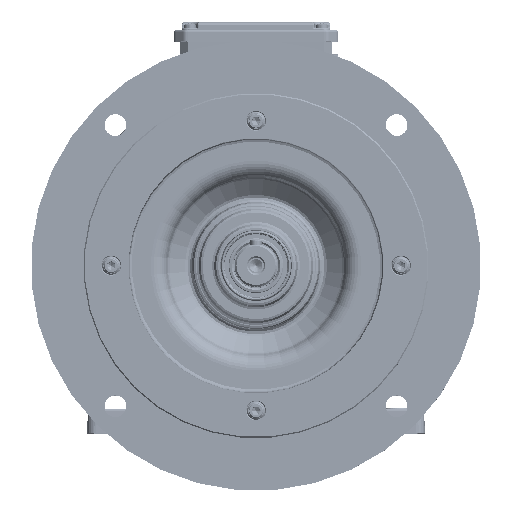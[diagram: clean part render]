
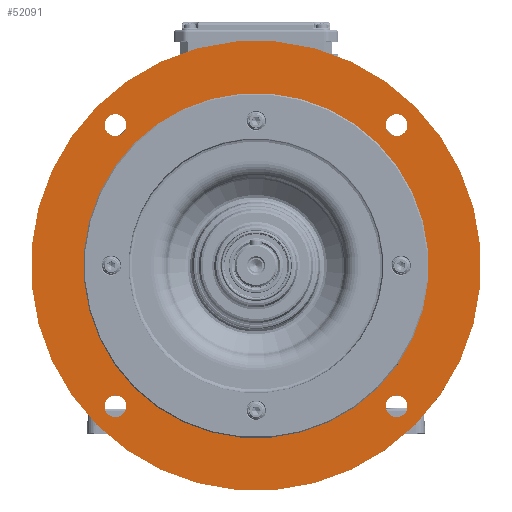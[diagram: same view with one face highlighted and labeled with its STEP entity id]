
A CAD part, top view. The second image highlights one B-rep face of the part: STEP entity #52091.
In plain terms, the highlighted planar face has unit normal (0, 0, 1).
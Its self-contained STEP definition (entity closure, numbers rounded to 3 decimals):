
#52091=ADVANCED_FACE('',(#67790,#67791,#67792,#67793,#67794,#67795),#65133,
 .T.);
#65133=PLANE('',#201046);
#67790=FACE_BOUND('',#69917,.T.);
#67791=FACE_BOUND('',#69918,.T.);
#67792=FACE_BOUND('',#69919,.T.);
#67793=FACE_BOUND('',#69920,.T.);
#67794=FACE_BOUND('',#69921,.T.);
#67795=FACE_BOUND('',#69922,.T.);
#69917=EDGE_LOOP('',(#84298));
#69918=EDGE_LOOP('',(#84299));
#69919=EDGE_LOOP('',(#84300));
#69920=EDGE_LOOP('',(#84301));
#69921=EDGE_LOOP('',(#84302));
#69922=EDGE_LOOP('',(#84303));
#84298=ORIENTED_EDGE('',*,*,#160167,.F.);
#84299=ORIENTED_EDGE('',*,*,#160168,.F.);
#84300=ORIENTED_EDGE('',*,*,#160169,.F.);
#84301=ORIENTED_EDGE('',*,*,#160170,.F.);
#84302=ORIENTED_EDGE('',*,*,#160171,.F.);
#84303=ORIENTED_EDGE('',*,*,#160172,.T.);
#142941=VERTEX_POINT('',#278328);
#142942=VERTEX_POINT('',#278330);
#142943=VERTEX_POINT('',#278332);
#142944=VERTEX_POINT('',#278334);
#142945=VERTEX_POINT('',#278336);
#142946=VERTEX_POINT('',#278338);
#160167=EDGE_CURVE('',#142941,#142941,#189508,.T.);
#160168=EDGE_CURVE('',#142942,#142942,#189509,.T.);
#160169=EDGE_CURVE('',#142943,#142943,#189510,.T.);
#160170=EDGE_CURVE('',#142944,#142944,#189511,.T.);
#160171=EDGE_CURVE('',#142945,#142945,#189512,.T.);
#160172=EDGE_CURVE('',#142946,#142946,#189513,.T.);
#189508=CIRCLE('',#201040,7.25);
#189509=CIRCLE('',#201041,7.25);
#189510=CIRCLE('',#201042,7.25);
#189511=CIRCLE('',#201043,7.25);
#189512=CIRCLE('',#201044,115.);
#189513=CIRCLE('',#201045,150.);
#201040=AXIS2_PLACEMENT_3D('',#278327,#223665,#223666);
#201041=AXIS2_PLACEMENT_3D('',#278329,#223667,#223668);
#201042=AXIS2_PLACEMENT_3D('',#278331,#223669,#223670);
#201043=AXIS2_PLACEMENT_3D('',#278333,#223671,#223672);
#201044=AXIS2_PLACEMENT_3D('',#278335,#223673,#223674);
#201045=AXIS2_PLACEMENT_3D('',#278337,#223675,#223676);
#201046=AXIS2_PLACEMENT_3D('',#278339,#223677,#223678);
#223665=DIRECTION('',(0.,0.,1.));
#223666=DIRECTION('',(-0.707,0.707,0.));
#223667=DIRECTION('',(0.,0.,1.));
#223668=DIRECTION('',(-0.707,-0.707,0.));
#223669=DIRECTION('',(0.,0.,1.));
#223670=DIRECTION('',(0.707,-0.707,0.));
#223671=DIRECTION('',(0.,0.,1.));
#223672=DIRECTION('',(0.707,0.707,0.));
#223673=DIRECTION('',(0.,0.,1.));
#223674=DIRECTION('',(-0.707,0.707,0.));
#223675=DIRECTION('',(0.,0.,1.));
#223676=DIRECTION('',(0.707,-0.707,0.));
#223677=DIRECTION('',(0.,0.,1.));
#223678=DIRECTION('',(0.707,-0.707,0.));
#278327=CARTESIAN_POINT('',(-93.692,-93.692,60.));
#278328=CARTESIAN_POINT('',(-98.818,-88.565,60.));
#278329=CARTESIAN_POINT('',(93.692,-93.692,60.));
#278330=CARTESIAN_POINT('',(88.565,-98.818,60.));
#278331=CARTESIAN_POINT('',(93.692,93.692,60.));
#278332=CARTESIAN_POINT('',(98.818,88.565,60.));
#278333=CARTESIAN_POINT('',(-93.692,93.692,60.));
#278334=CARTESIAN_POINT('',(-88.565,98.818,60.));
#278335=CARTESIAN_POINT('',(0.,0.,60.));
#278336=CARTESIAN_POINT('',(-81.317,81.317,60.));
#278337=CARTESIAN_POINT('',(0.,0.,
60.));
#278338=CARTESIAN_POINT('',(106.066,-106.066,60.));
#278339=CARTESIAN_POINT('',(0.,0.,
60.));
